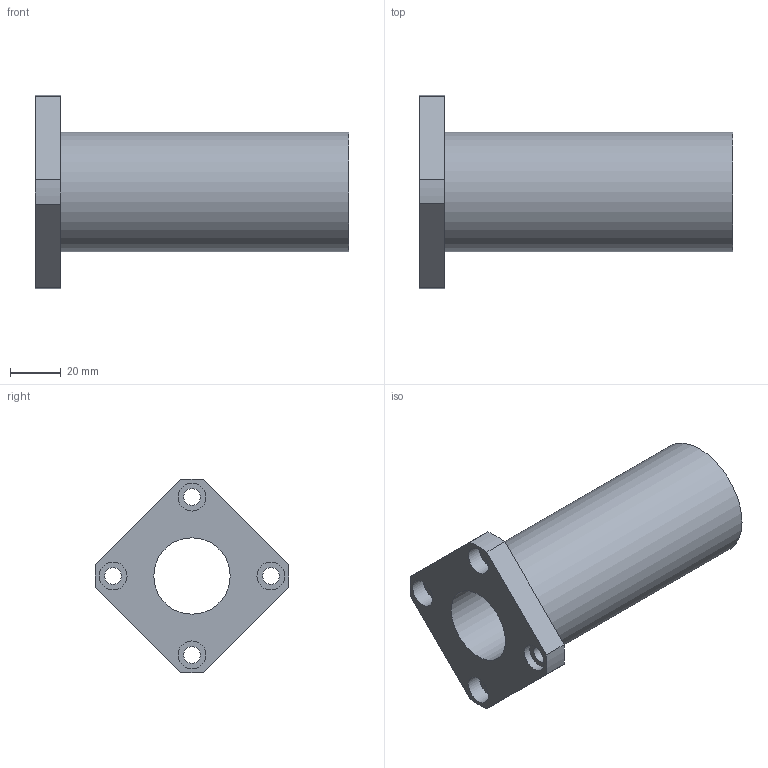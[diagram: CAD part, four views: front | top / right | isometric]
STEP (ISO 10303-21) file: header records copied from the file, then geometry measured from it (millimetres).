
FILE_DESCRIPTION( ( 'STEP AP203' ), '1' );
FILE_NAME( 'p:/temp/worker_5/temp/exporttempdir_4068_361_AvBjH/format_0/LMEK30LUU.stp', '2020-05-07T07:02:35', ( 'License CC BY-ND 4.0' ), ( 'CADENAS' ), ' ', 'PARTsolutions', ' ' );
FILE_SCHEMA( ( 'CONFIG_CONTROL_DESIGN' ) );
Length unit declared in the file: millimetre
Products named in the file (1): _LMEK30LUU
Bounding box: 123 x 75.93 x 75.93 mm (x, y, z)
Volume: 141617.8 mm3; surface area: 36996.3 mm2
Topology: 1 solids, 1 shells, 25 faces, 55 edges, 37 vertices
Faces by surface type: cylinder 14, plane 11
Full cylindrical faces by diameter (mm): 6.6 x4, 11 x4, 30 x1, 47 x1
Entity records: 710 total; most frequent: DIRECTION 124, CARTESIAN_POINT 106, ORIENTED_EDGE 88, AXIS2_PLACEMENT_3D 54, EDGE_LOOP 50, EDGE_CURVE 44, VERTEX_POINT 36, FACE_OUTER_BOUND 35
